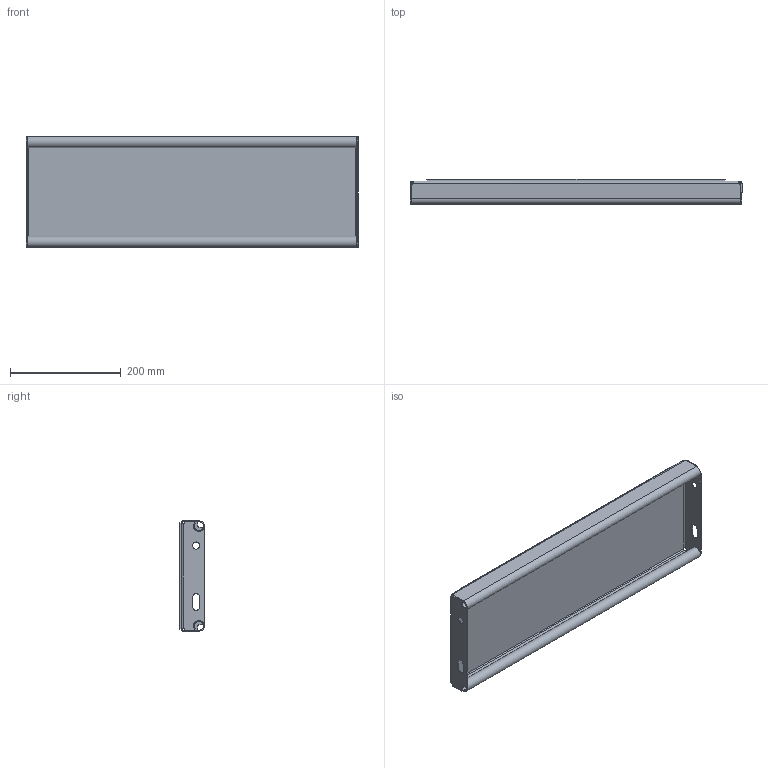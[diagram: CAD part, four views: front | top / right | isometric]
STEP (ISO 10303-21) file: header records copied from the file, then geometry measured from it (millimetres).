
FILE_DESCRIPTION (( 'STEP AP214' ), '1' );
FILE_NAME ('OPTIMO-Tread-Achil-O2-600x200x45x2-st240-F100130100-plain.STEP', '2021-03-15T10:24:56', ( '' ), ( '' ), 'SwSTEP 2.0', 'SolidWorks 2021', '' );
FILE_SCHEMA (( 'AUTOMOTIVE_DESIGN' ));
Length unit declared in the file: millimetre
Products named in the file (1): OPTIMO-Tread-Achil-O2-600x200x45x2-st240-F100130100-plain
Bounding box: 600 x 45 x 200 mm (x, y, z)
Volume: 762897.7 mm3; surface area: 461100 mm2
Topology: 1 solids, 1 shells, 248 faces, 640 edges, 412 vertices
Faces by surface type: plane 173, bspline 39, cylinder 36
Entity records: 9924 total; most frequent: CARTESIAN_POINT 4092, ORIENTED_EDGE 1280, DIRECTION 1022, EDGE_CURVE 640, VECTOR 490, LINE 490, VERTEX_POINT 412, EDGE_LOOP 274
